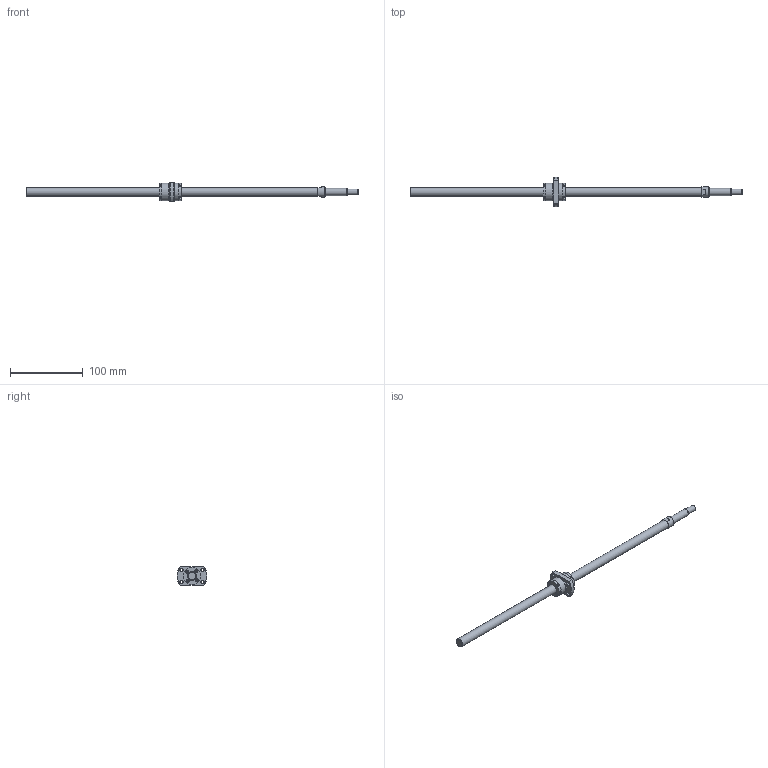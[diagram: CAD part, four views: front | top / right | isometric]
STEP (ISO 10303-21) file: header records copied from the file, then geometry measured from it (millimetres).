
FILE_DESCRIPTION(/* description */ ('STEP AP214'),/* implementation_level */ '2;1');
FILE_NAME(/* name */ 'SRT1210-396R455C7A0X(182.5Processing)',/* time_stamp */ '2026-08-06T15:13:35+02:00',/* author */ ('License CC BY-ND 4.0'),/* organization */ ('CADENAS'),/* preprocessor_version */ 'ST-DEVELOPER v20',/* originating_system */ 'PARTsolutions',/* authorisation */ ' ');
FILE_SCHEMA (('AUTOMOTIVE_DESIGN {1 0 10303 214 3 1 1}'));
Length unit declared in the file: millimetre
Products named in the file (3): SRT1210-396R455C7A0X(182.5Processing); SRT1210-396R470ACt7Processing82Shaft; SRT1210Nut
Assembly tree (2 placements, depth 2):
  SRT1210-396R455C7A0X(182.5Processing)
    SRT1210-396R470ACt7Processing82Shaft
    SRT1210Nut
Bounding box: 455 x 41 x 26 mm (x, y, z)
Volume: 62469.5 mm3; surface area: 22993.9 mm2
Topology: 2 solids, 2 shells, 150 faces, 361 edges, 238 vertices
Faces by surface type: plane 107, cylinder 32, cone 10, torus 1
Full cylindrical faces by diameter (mm): 3.8 x8, 4.5 x4, 8 x1, 10 x1, 12 x2, 14 x1, 23.5 x3, 24 x2
Entity records: 4267 total; most frequent: CARTESIAN_POINT 737, DIRECTION 718, ORIENTED_EDGE 654, EDGE_CURVE 327, AXIS2_PLACEMENT_3D 246, VERTEX_POINT 233, LINE 226, VECTOR 226
